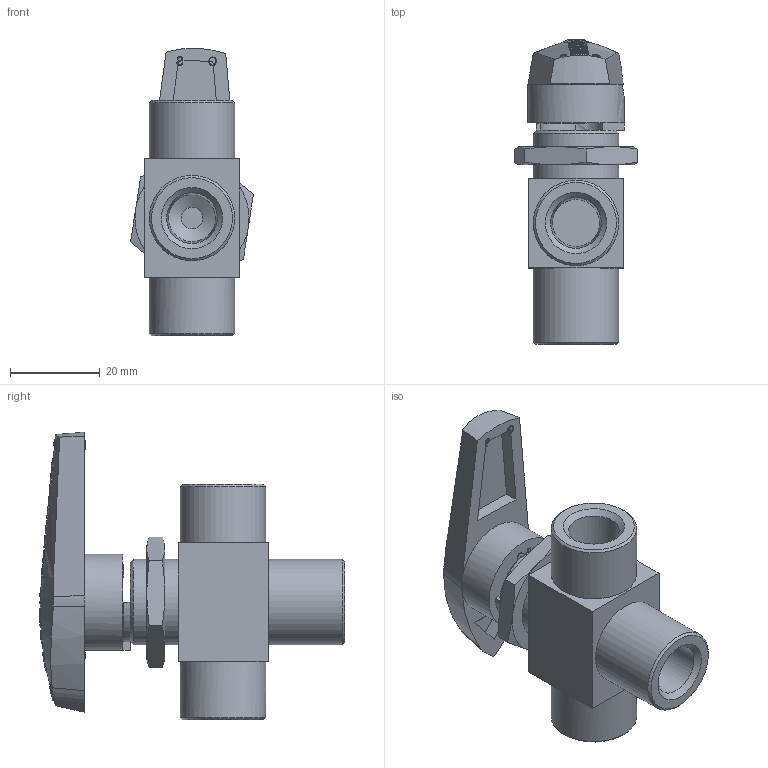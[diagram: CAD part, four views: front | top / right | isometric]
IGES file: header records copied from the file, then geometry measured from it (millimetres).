
Global section: file name: SBV120H23-F4N; native system: Autodesk Inventor 2018; preprocessor: unknown; author: user; date: 20200303.185557; units: millimetre
Bounding box: 27.35 x 67.87 x 64.04 mm (x, y, z)
Volume: 31017.9 mm3; surface area: 13254.2 mm2
Topology: 3 solids, 3 shells, 447 faces, 1248 edges, 835 vertices
Faces by surface type: bspline 447
